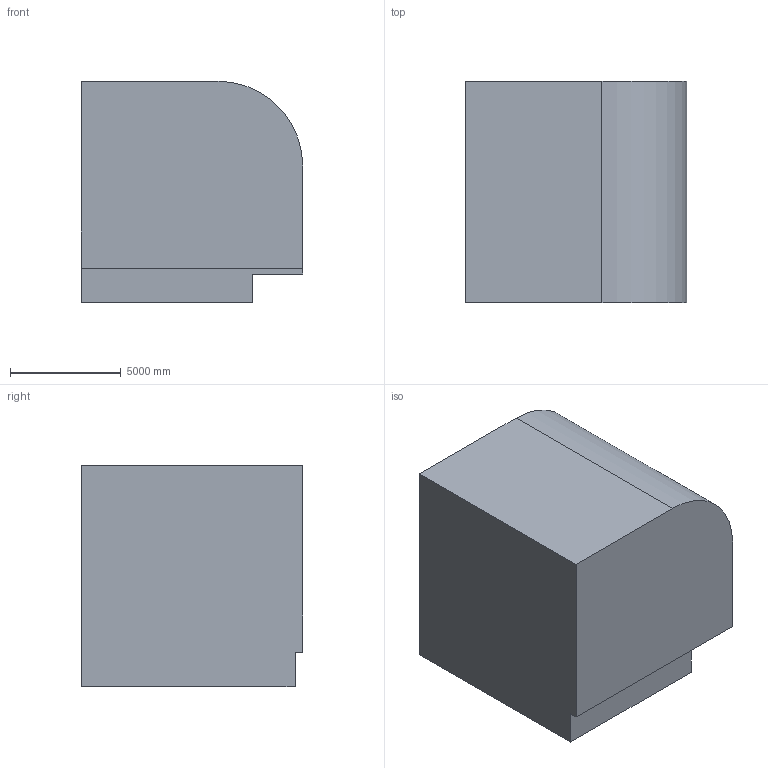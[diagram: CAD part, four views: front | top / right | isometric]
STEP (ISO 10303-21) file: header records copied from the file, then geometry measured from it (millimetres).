
FILE_DESCRIPTION (( 'STEP AP203' ), '1' );
FILE_NAME ('30.STEP', '2022-09-02T13:44:33', ( 'user' ), ( '' ), 'SwSTEP 2.0', 'SolidWorks 2021', '' );
FILE_SCHEMA (( 'CONFIG_CONTROL_DESIGN' ));
Length unit declared in the file: centimetre
Products named in the file (1): 30
Bounding box: 10000 x 10000 x 10000 mm (x, y, z)
Volume: 919705356807.3 mm3; surface area: 598725946.4 mm2
Topology: 1 solids, 1 shells, 16 faces, 39 edges, 26 vertices
Faces by surface type: plane 15, cylinder 1
Entity records: 542 total; most frequent: CARTESIAN_POINT 82, ORIENTED_EDGE 78, DIRECTION 75, EDGE_CURVE 39, VECTOR 37, LINE 37, VERTEX_POINT 26, AXIS2_PLACEMENT_3D 19
